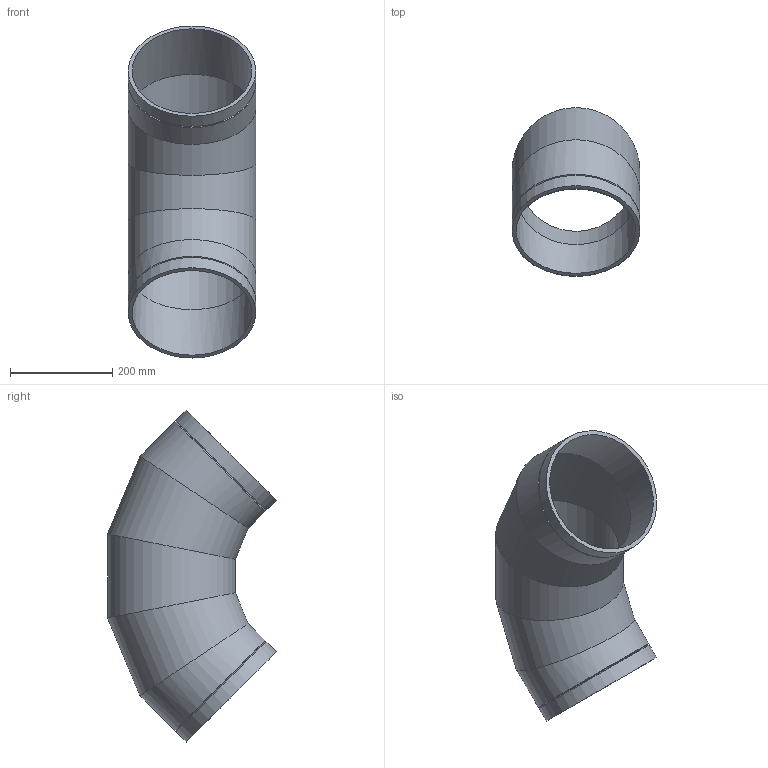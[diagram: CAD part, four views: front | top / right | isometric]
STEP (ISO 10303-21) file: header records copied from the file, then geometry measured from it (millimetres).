
FILE_DESCRIPTION(/* description */ (''),/* implementation_level */ '2;1');
FILE_NAME(/* name */ 'Z:\Geberit\Export\NewStep\371055.stp',/* time_stamp */ '2014-04-02T08:04:55+02:00',/* author */ ('Marco'),/* organization */ (''),/* preprocessor_version */ 'ST-DEVELOPER v15.2',/* originating_system */ 'Autodesk Inventor 2014',/* authorisation */ '');
FILE_SCHEMA (('AUTOMOTIVE_DESIGN { 1 0 10303 214 3 1 1 }'));
Length unit declared in the file: millimetre
Products named in the file (1): 371055
Bounding box: 250 x 330.25 x 650.54 mm (x, y, z)
Volume: 3267960.8 mm3; surface area: 855696.1 mm2
Topology: 1 solids, 1 shells, 18 faces, 46 edges, 30 vertices
Faces by surface type: cylinder 12, cone 4, plane 2
Full cylindrical faces by diameter (mm): 234.4 x5, 250 x7
Entity records: 469 total; most frequent: DIRECTION 90, CARTESIAN_POINT 71, ORIENTED_EDGE 52, AXIS2_PLACEMENT_3D 45, EDGE_LOOP 36, VERTEX_POINT 26, EDGE_CURVE 26, FACE_BOUND 20
